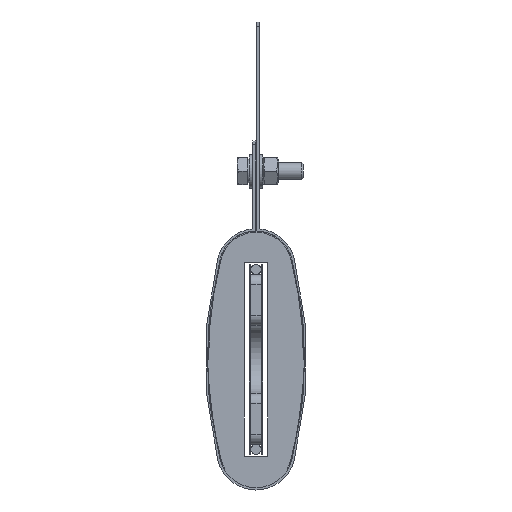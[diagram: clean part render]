
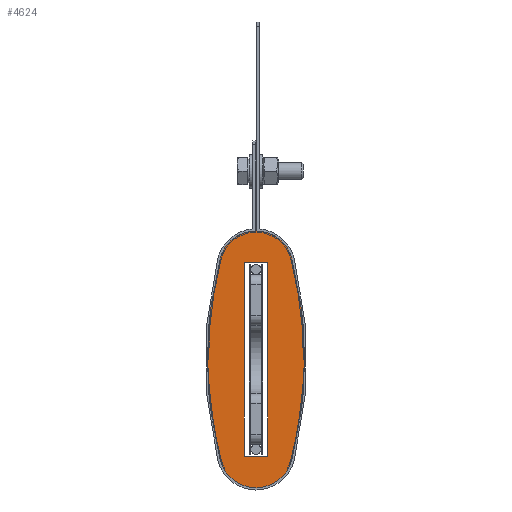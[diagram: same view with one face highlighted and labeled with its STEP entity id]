
A CAD part, front view. The second image highlights one B-rep face of the part: STEP entity #4624.
In plain terms, the highlighted planar face has unit normal (0, -1, 0).
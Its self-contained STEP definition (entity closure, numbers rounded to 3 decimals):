
#428=PLANE($,#5096);
#500=CIRCLE($,#4814,119.768);
#502=CIRCLE($,#4817,119.768);
#507=CIRCLE($,#4823,10.644);
#514=CIRCLE($,#4831,10.644);
#516=CIRCLE($,#4834,10.644);
#521=CIRCLE($,#4842,119.768);
#524=CIRCLE($,#4846,119.768);
#532=CIRCLE($,#4858,120.068);
#538=CIRCLE($,#4867,10.944);
#544=CIRCLE($,#4876,120.068);
#555=CIRCLE($,#4890,10.944);
#573=CIRCLE($,#4916,119.315);
#575=CIRCLE($,#4919,10.625);
#578=CIRCLE($,#4923,119.315);
#579=CIRCLE($,#4925,119.315);
#670=CIRCLE($,#5086,10.625);
#671=CIRCLE($,#5088,10.625);
#672=CIRCLE($,#5090,119.315);
#782=FACE_BOUND($,#1044,.T.);
#783=FACE_BOUND($,#1045,.T.);
#784=FACE_BOUND($,#1046,.T.);
#785=FACE_BOUND($,#1047,.T.);
#786=FACE_BOUND($,#1048,.T.);
#1044=EDGE_LOOP($,(#3765,#3766,#3767,#3768,#3769,#3770));
#1045=EDGE_LOOP($,(#3771,#3772,#3773,#3774));
#1046=EDGE_LOOP($,(#3775,#3776,#3777,#3778));
#1047=EDGE_LOOP($,(#3779,#3780,#3781,#3782));
#1048=EDGE_LOOP($,(#3783,#3784,#3785,#3786));
#1407=LINE($,#7529,#1725);
#1411=LINE($,#7537,#1729);
#1414=LINE($,#7543,#1732);
#1417=LINE($,#7548,#1735);
#1725=VECTOR($,#6255,57.);
#1729=VECTOR($,#6261,7.);
#1732=VECTOR($,#6266,57.);
#1735=VECTOR($,#6271,7.);
#1915=VERTEX_POINT($,#6975);
#1916=VERTEX_POINT($,#6977);
#1918=VERTEX_POINT($,#6982);
#1920=VERTEX_POINT($,#6986);
#1925=VERTEX_POINT($,#7000);
#1936=VERTEX_POINT($,#7023);
#1938=VERTEX_POINT($,#7027);
#1940=VERTEX_POINT($,#7033);
#1947=VERTEX_POINT($,#7052);
#1950=VERTEX_POINT($,#7060);
#1959=VERTEX_POINT($,#7085);
#1960=VERTEX_POINT($,#7087);
#1970=VERTEX_POINT($,#7111);
#1976=VERTEX_POINT($,#7129);
#2001=VERTEX_POINT($,#7207);
#2003=VERTEX_POINT($,#7213);
#2005=VERTEX_POINT($,#7222);
#2096=VERTEX_POINT($,#7519);
#2097=VERTEX_POINT($,#7527);
#2098=VERTEX_POINT($,#7528);
#2101=VERTEX_POINT($,#7536);
#2103=VERTEX_POINT($,#7542);
#2401=EDGE_CURVE($,#1916,#1915,#500,.T.);
#2406=EDGE_CURVE($,#1918,#1920,#502,.T.);
#2413=EDGE_CURVE($,#1925,#1916,#507,.T.);
#2427=EDGE_CURVE($,#1936,#1938,#514,.T.);
#2430=EDGE_CURVE($,#1920,#1940,#516,.T.);
#2439=EDGE_CURVE($,#1938,#1947,#521,.T.);
#2442=EDGE_CURVE($,#1950,#1925,#524,.T.);
#2455=EDGE_CURVE($,#1960,#1959,#532,.T.);
#2466=EDGE_CURVE($,#1970,#1960,#538,.T.);
#2475=EDGE_CURVE($,#1976,#1970,#544,.T.);
#2491=EDGE_CURVE($,#1959,#1976,#555,.T.);
#2517=EDGE_CURVE($,#1918,#2001,#573,.T.);
#2520=EDGE_CURVE($,#1936,#2003,#575,.T.);
#2524=EDGE_CURVE($,#2003,#1947,#578,.T.);
#2525=EDGE_CURVE($,#1950,#2005,#579,.T.);
#2661=EDGE_CURVE($,#2005,#2096,#670,.T.);
#2663=EDGE_CURVE($,#2001,#1940,#671,.T.);
#2664=EDGE_CURVE($,#2096,#1915,#672,.T.);
#2665=EDGE_CURVE($,#2097,#2098,#1407,.T.);
#2669=EDGE_CURVE($,#2098,#2101,#1411,.T.);
#2672=EDGE_CURVE($,#2101,#2103,#1414,.T.);
#2675=EDGE_CURVE($,#2103,#2097,#1417,.T.);
#3765=ORIENTED_EDGE($,*,*,#2664,.F.);
#3766=ORIENTED_EDGE($,*,*,#2661,.F.);
#3767=ORIENTED_EDGE($,*,*,#2525,.F.);
#3768=ORIENTED_EDGE($,*,*,#2442,.T.);
#3769=ORIENTED_EDGE($,*,*,#2413,.T.);
#3770=ORIENTED_EDGE($,*,*,#2401,.T.);
#3771=ORIENTED_EDGE($,*,*,#2406,.T.);
#3772=ORIENTED_EDGE($,*,*,#2430,.T.);
#3773=ORIENTED_EDGE($,*,*,#2663,.F.);
#3774=ORIENTED_EDGE($,*,*,#2517,.F.);
#3775=ORIENTED_EDGE($,*,*,#2466,.T.);
#3776=ORIENTED_EDGE($,*,*,#2455,.T.);
#3777=ORIENTED_EDGE($,*,*,#2491,.T.);
#3778=ORIENTED_EDGE($,*,*,#2475,.T.);
#3779=ORIENTED_EDGE($,*,*,#2427,.T.);
#3780=ORIENTED_EDGE($,*,*,#2439,.T.);
#3781=ORIENTED_EDGE($,*,*,#2524,.F.);
#3782=ORIENTED_EDGE($,*,*,#2520,.F.);
#3783=ORIENTED_EDGE($,*,*,#2665,.T.);
#3784=ORIENTED_EDGE($,*,*,#2669,.T.);
#3785=ORIENTED_EDGE($,*,*,#2672,.T.);
#3786=ORIENTED_EDGE($,*,*,#2675,.T.);
#4624=ADVANCED_FACE($,(#782,#783,#784,#785,#786),#428,.F.);
#4814=AXIS2_PLACEMENT_3D($,#6978,#5608,#5609);
#4817=AXIS2_PLACEMENT_3D($,#6988,#5617,#5618);
#4823=AXIS2_PLACEMENT_3D($,#7001,#5631,#5632);
#4831=AXIS2_PLACEMENT_3D($,#7029,#5654,#5655);
#4834=AXIS2_PLACEMENT_3D($,#7035,#5661,#5662);
#4842=AXIS2_PLACEMENT_3D($,#7055,#5681,#5682);
#4846=AXIS2_PLACEMENT_3D($,#7061,#5689,#5690);
#4858=AXIS2_PLACEMENT_3D($,#7088,#5718,#5719);
#4867=AXIS2_PLACEMENT_3D($,#7112,#5741,#5742);
#4876=AXIS2_PLACEMENT_3D($,#7130,#5762,#5763);
#4890=AXIS2_PLACEMENT_3D($,#7158,#5795,#5796);
#4916=AXIS2_PLACEMENT_3D($,#7208,#5855,#5856);
#4919=AXIS2_PLACEMENT_3D($,#7214,#5862,#5863);
#4923=AXIS2_PLACEMENT_3D($,#7220,#5871,#5872);
#4925=AXIS2_PLACEMENT_3D($,#7223,#5875,#5876);
#5086=AXIS2_PLACEMENT_3D($,#7520,#6242,#6243);
#5088=AXIS2_PLACEMENT_3D($,#7523,#6247,#6248);
#5090=AXIS2_PLACEMENT_3D($,#7525,#6251,#6252);
#5096=AXIS2_PLACEMENT_3D($,#7551,#6275,#6276);
#5608=DIRECTION('center_axis',(0.,1.,0.));
#5609=DIRECTION('ref_axis',(0.969,0.,0.246));
#5617=DIRECTION('center_axis',(0.,1.,0.));
#5618=DIRECTION('ref_axis',(0.969,0.,0.246));
#5631=DIRECTION('center_axis',(0.,1.,0.));
#5632=DIRECTION('ref_axis',(-0.969,0.,0.246));
#5654=DIRECTION('center_axis',(0.,1.,0.));
#5655=DIRECTION('ref_axis',(0.969,0.,-0.246));
#5661=DIRECTION('center_axis',(0.,1.,0.));
#5662=DIRECTION('ref_axis',(0.969,0.,-0.246));
#5681=DIRECTION('center_axis',(0.,1.,0.));
#5682=DIRECTION('ref_axis',(-0.969,0.,-0.246));
#5689=DIRECTION('center_axis',(0.,1.,0.));
#5690=DIRECTION('ref_axis',(-0.969,0.,-0.246));
#5718=DIRECTION('center_axis',(0.,-1.,0.));
#5719=DIRECTION('ref_axis',(0.969,0.,0.246));
#5741=DIRECTION('center_axis',(0.,-1.,0.));
#5742=DIRECTION('ref_axis',(0.969,0.,-0.246));
#5762=DIRECTION('center_axis',(0.,-1.,0.));
#5763=DIRECTION('ref_axis',(-0.969,0.,-0.246));
#5795=DIRECTION('center_axis',(0.,-1.,0.));
#5796=DIRECTION('ref_axis',(-0.969,0.,0.246));
#5855=DIRECTION('center_axis',(0.,1.,0.));
#5856=DIRECTION('ref_axis',(0.969,0.,-0.247));
#5862=DIRECTION('center_axis',(0.,1.,0.));
#5863=DIRECTION('ref_axis',(-0.969,0.,-0.247));
#5871=DIRECTION('center_axis',(0.,1.,0.));
#5872=DIRECTION('ref_axis',(-0.969,0.,0.247));
#5875=DIRECTION('center_axis',(0.,1.,0.));
#5876=DIRECTION('ref_axis',(-0.969,0.,0.247));
#6242=DIRECTION('center_axis',(0.,1.,0.));
#6243=DIRECTION('ref_axis',(0.969,0.,0.247));
#6247=DIRECTION('center_axis',(0.,1.,0.));
#6248=DIRECTION('ref_axis',(-0.969,0.,-0.247));
#6251=DIRECTION('center_axis',(0.,1.,0.));
#6252=DIRECTION('ref_axis',(0.969,0.,-0.247));
#6255=DIRECTION($,(0.,0.,1.));
#6261=DIRECTION($,(1.,0.,0.));
#6266=DIRECTION($,(0.,0.,-1.));
#6271=DIRECTION($,(-1.,0.,0.));
#6275=DIRECTION('center_axis',(0.,1.,0.));
#6276=DIRECTION('ref_axis',(0.,0.,1.));
#6975=CARTESIAN_POINT('',(-40.5,-197.5,-21.491));
#6977=CARTESIAN_POINT('',(-44.184,-197.5,7.994));
#6978=CARTESIAN_POINT('Origin',(-160.268,-197.5,-21.481));
#6982=CARTESIAN_POINT('',(-40.902,-197.5,-31.282));
#6986=CARTESIAN_POINT('',(-44.184,-197.5,-50.957));
#6988=CARTESIAN_POINT('Origin',(-160.268,-197.5,-21.481));
#7000=CARTESIAN_POINT('',(-64.816,-197.5,7.994));
#7001=CARTESIAN_POINT('Origin',(-54.5,-197.5,5.375));
#7023=CARTESIAN_POINT('',(-63.71,-197.5,-53.674));
#7027=CARTESIAN_POINT('',(-64.816,-197.5,-50.957));
#7029=CARTESIAN_POINT('Origin',(-54.5,-197.5,-48.338));
#7033=CARTESIAN_POINT('',(-45.29,-197.5,-53.674));
#7035=CARTESIAN_POINT('Origin',(-54.5,-197.5,-48.338));
#7052=CARTESIAN_POINT('',(-68.098,-197.5,-31.286));
#7055=CARTESIAN_POINT('Origin',(51.268,-197.5,-21.481));
#7060=CARTESIAN_POINT('',(-68.5,-197.5,-21.487));
#7061=CARTESIAN_POINT('Origin',(51.268,-197.5,-21.481));
#7085=CARTESIAN_POINT('',(-43.893,-197.5,8.068));
#7087=CARTESIAN_POINT('',(-43.893,-197.5,-51.031));
#7088=CARTESIAN_POINT('Origin',(-160.268,-197.5,-21.481));
#7111=CARTESIAN_POINT('',(-65.107,-197.5,-51.031));
#7112=CARTESIAN_POINT('Origin',(-54.5,-197.5,-48.338));
#7129=CARTESIAN_POINT('',(-65.107,-197.5,8.068));
#7130=CARTESIAN_POINT('Origin',(51.268,-197.5,-21.481));
#7158=CARTESIAN_POINT('Origin',(-54.5,-197.5,5.375));
#7207=CARTESIAN_POINT('',(-44.205,-197.5,-51.002));
#7208=CARTESIAN_POINT('Origin',(-159.815,-197.5,-21.5));
#7213=CARTESIAN_POINT('',(-64.795,-197.5,-51.002));
#7214=CARTESIAN_POINT('Origin',(-54.5,-197.5,-48.375));
#7220=CARTESIAN_POINT('Origin',(50.815,-197.5,-21.5));
#7222=CARTESIAN_POINT('',(-64.795,-197.5,8.002));
#7223=CARTESIAN_POINT('Origin',(50.815,-197.5,-21.5));
#7519=CARTESIAN_POINT('',(-44.205,-197.5,8.002));
#7520=CARTESIAN_POINT('Origin',(-54.5,-197.5,5.375));
#7523=CARTESIAN_POINT('Origin',(-54.5,-197.5,-48.375));
#7525=CARTESIAN_POINT('Origin',(-159.815,-197.5,-21.5));
#7527=CARTESIAN_POINT('',(-58.,-197.5,-50.));
#7528=CARTESIAN_POINT('',(-58.,-197.5,7.));
#7529=CARTESIAN_POINT($,(-58.,-197.5,-35.75));
#7536=CARTESIAN_POINT('',(-51.,-197.5,7.));
#7537=CARTESIAN_POINT($,(-56.25,-197.5,7.));
#7542=CARTESIAN_POINT('',(-51.,-197.5,-50.));
#7543=CARTESIAN_POINT($,(-51.,-197.5,-7.25));
#7548=CARTESIAN_POINT($,(-52.75,-197.5,-50.));
#7551=CARTESIAN_POINT('Origin',(-54.5,-197.5,-21.5));
